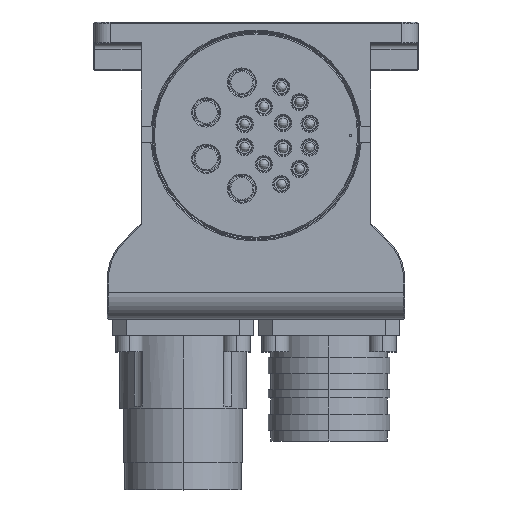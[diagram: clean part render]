
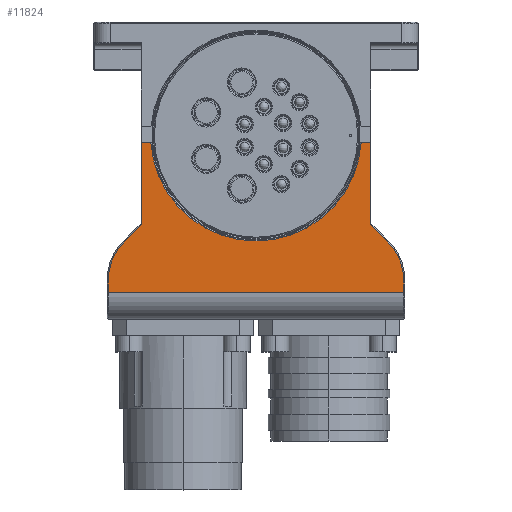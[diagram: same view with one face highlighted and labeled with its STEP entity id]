
A CAD part, top view. The second image highlights one B-rep face of the part: STEP entity #11824.
In plain terms, the highlighted planar face has unit normal (0, 0, 1).
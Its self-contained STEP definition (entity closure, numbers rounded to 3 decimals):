
#5 = EDGE_CURVE ( 'NONE', #21165, #8575, #4870, .T. ) ;
#345 = DIRECTION ( 'NONE',  ( -1., 0., 0. ) ) ;
#359 = VECTOR ( 'NONE', #10259, 1000. ) ;
#466 = CARTESIAN_POINT ( 'NONE',  ( -21.25, 14.75, 0. ) ) ;
#845 = VECTOR ( 'NONE', #10682, 1000. ) ;
#863 = DIRECTION ( 'NONE',  ( 1., 0., 0. ) ) ;
#934 = VECTOR ( 'NONE', #15547, 1000. ) ;
#974 = CARTESIAN_POINT ( 'NONE',  ( -21.25, -16.283, 0. ) ) ;
#1265 = LINE ( 'NONE', #17867, #20025 ) ;
#1620 = EDGE_LOOP ( 'NONE', ( #17012, #18908, #13341, #16637, #1827, #6876, #20402, #7092, #17833, #4851, #5002, #3036 ) ) ;
#1827 = ORIENTED_EDGE ( 'NONE', *, *, #16325, .T. ) ;
#1848 = CARTESIAN_POINT ( 'NONE',  ( 21.25, 14.75, 0. ) ) ;
#1895 = VERTEX_POINT ( 'NONE', #20367 ) ;
#2315 = CARTESIAN_POINT ( 'NONE',  ( -19.457, -1.05, 0. ) ) ;
#2428 = LINE ( 'NONE', #10608, #845 ) ;
#2505 = DIRECTION ( 'NONE',  ( 0., 0., -1. ) ) ;
#2885 = VERTEX_POINT ( 'NONE', #17911 ) ;
#3036 = ORIENTED_EDGE ( 'NONE', *, *, #18424, .T. ) ;
#3253 = AXIS2_PLACEMENT_3D ( 'NONE', #5449, #7150, #345 ) ;
#3617 = VECTOR ( 'NONE', #12461, 1000. ) ;
#3879 = LINE ( 'NONE', #5508, #934 ) ;
#4243 = EDGE_CURVE ( 'NONE', #2885, #4701, #22012, .T. ) ;
#4272 = EDGE_CURVE ( 'NONE', #18524, #9360, #16374, .T. ) ;
#4701 = VERTEX_POINT ( 'NONE', #13637 ) ;
#4851 = ORIENTED_EDGE ( 'NONE', *, *, #21204, .T. ) ;
#4870 = LINE ( 'NONE', #974, #16420 ) ;
#5002 = ORIENTED_EDGE ( 'NONE', *, *, #19454, .T. ) ;
#5058 = VERTEX_POINT ( 'NONE', #11328 ) ;
#5320 = VERTEX_POINT ( 'NONE', #19020 ) ;
#5449 = CARTESIAN_POINT ( 'NONE',  ( 17.4, -26.434, 0. ) ) ;
#5508 = CARTESIAN_POINT ( 'NONE',  ( -27.3, 0., 0. ) ) ;
#5939 = VERTEX_POINT ( 'NONE', #6583 ) ;
#6090 = DIRECTION ( 'NONE',  ( 0., 0., 1. ) ) ;
#6583 = CARTESIAN_POINT ( 'NONE',  ( 27.3, -28.75, 0. ) ) ;
#6876 = ORIENTED_EDGE ( 'NONE', *, *, #9671, .T. ) ;
#6931 = VECTOR ( 'NONE', #14023, 1000. ) ;
#7092 = ORIENTED_EDGE ( 'NONE', *, *, #13025, .F. ) ;
#7150 = DIRECTION ( 'NONE',  ( 0., 0., 1. ) ) ;
#7175 = LINE ( 'NONE', #8376, #14950 ) ;
#7544 = PLANE ( 'NONE',  #14310 ) ;
#7841 = CARTESIAN_POINT ( 'NONE',  ( -24.4, -19.433, 0. ) ) ;
#8376 = CARTESIAN_POINT ( 'NONE',  ( -21., -1.05, 0. ) ) ;
#8575 = VERTEX_POINT ( 'NONE', #7841 ) ;
#9263 = CARTESIAN_POINT ( 'NONE',  ( 0., 0., 0. ) ) ;
#9360 = VERTEX_POINT ( 'NONE', #15282 ) ;
#9671 = EDGE_CURVE ( 'NONE', #13505, #18524, #13844, .T. ) ;
#9823 = CARTESIAN_POINT ( 'NONE',  ( 0., 0.25, 0. ) ) ;
#9977 = CIRCLE ( 'NONE', #11422, 9.9 ) ;
#10259 = DIRECTION ( 'NONE',  ( 0., 1., 0. ) ) ;
#10572 = AXIS2_PLACEMENT_3D ( 'NONE', #9823, #2505, #12038 ) ;
#10608 = CARTESIAN_POINT ( 'NONE',  ( 27.3, 0., 0. ) ) ;
#10682 = DIRECTION ( 'NONE',  ( 0., 1., 0. ) ) ;
#11213 = CARTESIAN_POINT ( 'NONE',  ( -21.25, -16.283, 0. ) ) ;
#11328 = CARTESIAN_POINT ( 'NONE',  ( 21.25, -16.283, 0. ) ) ;
#11422 = AXIS2_PLACEMENT_3D ( 'NONE', #14630, #16444, #12925 ) ;
#11504 = EDGE_CURVE ( 'NONE', #5058, #5320, #19136, .T. ) ;
#11824 = ADVANCED_FACE ( 'NONE', ( #18572 ), #7544, .T. ) ;
#12001 = CARTESIAN_POINT ( 'NONE',  ( 19.457, -1.05, 0. ) ) ;
#12038 = DIRECTION ( 'NONE',  ( 1., 0., 0. ) ) ;
#12461 = DIRECTION ( 'NONE',  ( 1., 0., 0. ) ) ;
#12925 = DIRECTION ( 'NONE',  ( 0., 1., 0. ) ) ;
#13006 = EDGE_CURVE ( 'NONE', #5939, #2885, #2428, .T. ) ;
#13025 = EDGE_CURVE ( 'NONE', #21165, #9360, #19816, .T. ) ;
#13341 = ORIENTED_EDGE ( 'NONE', *, *, #17222, .T. ) ;
#13505 = VERTEX_POINT ( 'NONE', #12001 ) ;
#13637 = CARTESIAN_POINT ( 'NONE',  ( 24.4, -19.433, 0. ) ) ;
#13844 = CIRCLE ( 'NONE', #10572, 19.5 ) ;
#14023 = DIRECTION ( 'NONE',  ( 0., 1., 0. ) ) ;
#14180 = DIRECTION ( 'NONE',  ( -0.707, 0.707, 0. ) ) ;
#14310 = AXIS2_PLACEMENT_3D ( 'NONE', #9263, #6090, #863 ) ;
#14557 = DIRECTION ( 'NONE',  ( -1., 0., 0. ) ) ;
#14630 = CARTESIAN_POINT ( 'NONE',  ( -17.4, -26.434, 0. ) ) ;
#14872 = LINE ( 'NONE', #19344, #3617 ) ;
#14950 = VECTOR ( 'NONE', #15179, 1000. ) ;
#15179 = DIRECTION ( 'NONE',  ( -1., 0., 0. ) ) ;
#15282 = CARTESIAN_POINT ( 'NONE',  ( -21.25, -1.05, 0. ) ) ;
#15390 = CARTESIAN_POINT ( 'NONE',  ( -27.3, -28.75, 0. ) ) ;
#15547 = DIRECTION ( 'NONE',  ( 0., -1., 0. ) ) ;
#16325 = EDGE_CURVE ( 'NONE', #5320, #13505, #7175, .T. ) ;
#16374 = LINE ( 'NONE', #17594, #17475 ) ;
#16420 = VECTOR ( 'NONE', #21647, 1000. ) ;
#16444 = DIRECTION ( 'NONE',  ( 0., 0., 1. ) ) ;
#16637 = ORIENTED_EDGE ( 'NONE', *, *, #11504, .T. ) ;
#17012 = ORIENTED_EDGE ( 'NONE', *, *, #13006, .T. ) ;
#17222 = EDGE_CURVE ( 'NONE', #4701, #5058, #1265, .T. ) ;
#17475 = VECTOR ( 'NONE', #14557, 1000. ) ;
#17594 = CARTESIAN_POINT ( 'NONE',  ( 0., -1.05, 0. ) ) ;
#17671 = VERTEX_POINT ( 'NONE', #15390 ) ;
#17833 = ORIENTED_EDGE ( 'NONE', *, *, #5, .T. ) ;
#17867 = CARTESIAN_POINT ( 'NONE',  ( 24.4, -19.433, 0. ) ) ;
#17911 = CARTESIAN_POINT ( 'NONE',  ( 27.3, -26.434, 0. ) ) ;
#18424 = EDGE_CURVE ( 'NONE', #17671, #5939, #14872, .T. ) ;
#18524 = VERTEX_POINT ( 'NONE', #2315 ) ;
#18572 = FACE_OUTER_BOUND ( 'NONE', #1620, .T. ) ;
#18908 = ORIENTED_EDGE ( 'NONE', *, *, #4243, .T. ) ;
#19020 = CARTESIAN_POINT ( 'NONE',  ( 21.25, -1.05, 0. ) ) ;
#19136 = LINE ( 'NONE', #1848, #359 ) ;
#19344 = CARTESIAN_POINT ( 'NONE',  ( 0., -28.75, 0. ) ) ;
#19454 = EDGE_CURVE ( 'NONE', #1895, #17671, #3879, .T. ) ;
#19816 = LINE ( 'NONE', #466, #6931 ) ;
#20025 = VECTOR ( 'NONE', #14180, 1000. ) ;
#20367 = CARTESIAN_POINT ( 'NONE',  ( -27.3, -26.434, 0. ) ) ;
#20402 = ORIENTED_EDGE ( 'NONE', *, *, #4272, .T. ) ;
#21165 = VERTEX_POINT ( 'NONE', #11213 ) ;
#21204 = EDGE_CURVE ( 'NONE', #8575, #1895, #9977, .T. ) ;
#21647 = DIRECTION ( 'NONE',  ( -0.707, -0.707, 0. ) ) ;
#22012 = CIRCLE ( 'NONE', #3253, 9.9 ) ;
